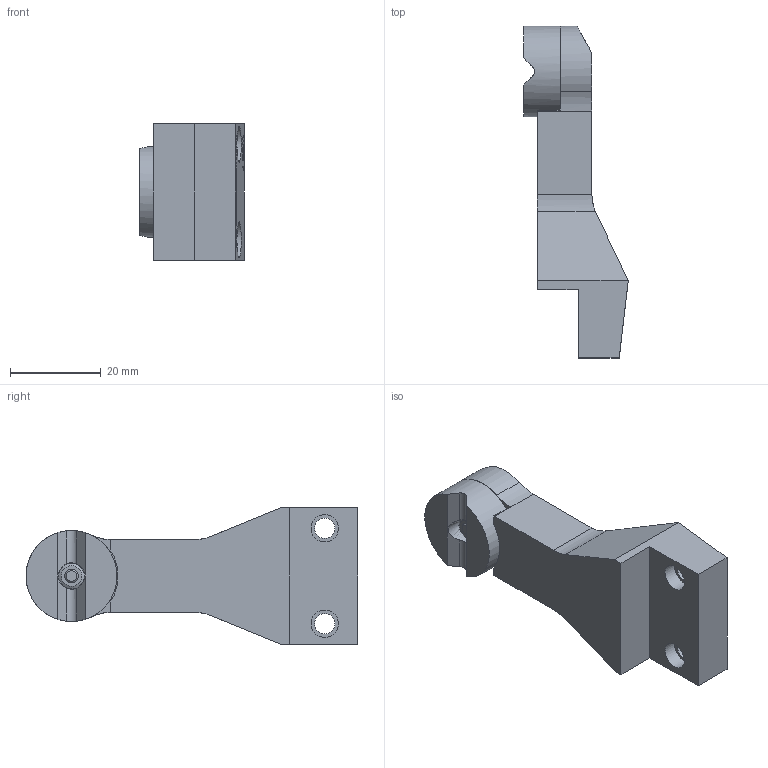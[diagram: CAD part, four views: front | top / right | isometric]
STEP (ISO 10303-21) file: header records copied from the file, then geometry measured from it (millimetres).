
FILE_DESCRIPTION((''),'2;1');
FILE_NAME('D:\WSG-FMF\Mechanik\Modell\export\WSG-F.stp','2013-01-21T10:16:37',('Karsten'),(''),'','','');
FILE_SCHEMA(('AUTOMOTIVE_DESIGN { 1 0 10303 214 1 1 1 1 }'));
Length unit declared in the file: millimetre
Products named in the file (5): WSG-F Zusammenbau; Grundkörper; Prismeneinsatz; DIN EN ISO 1207 M3 x 10; DIN 934 - ersetzt durch DIN EN 24032/28673/28674 M3
Assembly tree (4 placements, depth 2):
  WSG-F Zusammenbau
    Grundkörper
    Prismeneinsatz
    DIN EN ISO 1207 M3 x 10
    DIN 934 - ersetzt durch DIN EN 24032/28673/28674 M3
Bounding box: 23 x 73 x 30 mm (x, y, z)
Volume: 19542.1 mm3; surface area: 7517.8 mm2
Topology: 4 solids, 4 shells, 487 faces, 1304 edges, 867 vertices
Faces by surface type: bspline 265, plane 190, cylinder 22, cone 8, torus 2
Full cylindrical faces by diameter (mm): 2.693 x1, 3 x1, 4.5 x2, 6 x4, 8 x2, 20 x1
Entity records: 20446 total; most frequent: CARTESIAN_POINT 10033, ORIENTED_EDGE 2542, EDGE_CURVE 1271, DIRECTION 1263, VERTEX_POINT 858, VECTOR 657, LINE 657, EDGE_LOOP 563
